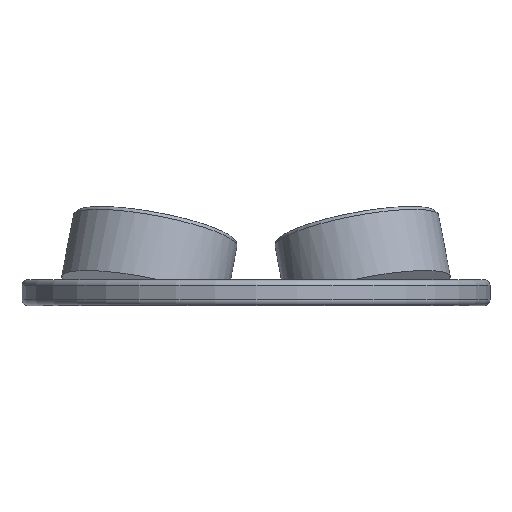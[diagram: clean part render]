
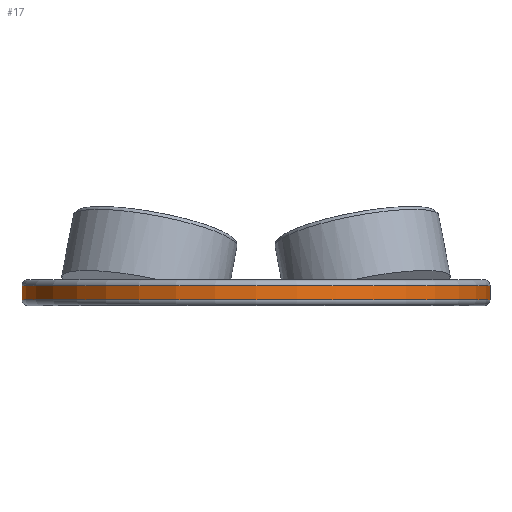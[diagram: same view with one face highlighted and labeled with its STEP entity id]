
A CAD part, front view. The second image highlights one B-rep face of the part: STEP entity #17.
In plain terms, the highlighted cylindrical face has radius 14.596 mm (diameter 29.192 mm), a full revolution.
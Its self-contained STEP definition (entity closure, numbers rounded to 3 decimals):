
#17 = ADVANCED_FACE('',(#18),#32,.T.);
#18 = FACE_BOUND('',#19,.F.);
#19 = EDGE_LOOP('',(#20,#50,#77,#78));
#20 = ORIENTED_EDGE('',*,*,#21,.T.);
#21 = EDGE_CURVE('',#22,#24,#26,.T.);
#22 = VERTEX_POINT('',#23);
#23 = CARTESIAN_POINT('',(14.596,0.,0.35));
#24 = VERTEX_POINT('',#25);
#25 = CARTESIAN_POINT('',(14.596,0.,1.25));
#26 = SEAM_CURVE('',#27,(#31,#43),.PCURVE_S1.);
#27 = LINE('',#28,#29);
#28 = CARTESIAN_POINT('',(14.596,0.,0.));
#29 = VECTOR('',#30,1.);
#30 = DIRECTION('',(0.,0.,1.));
#31 = PCURVE('',#32,#37);
#32 = CYLINDRICAL_SURFACE('',#33,14.596);
#33 = AXIS2_PLACEMENT_3D('',#34,#35,#36);
#34 = CARTESIAN_POINT('',(0.,0.,0.));
#35 = DIRECTION('',(-0.,-0.,-1.));
#36 = DIRECTION('',(1.,0.,0.));
#37 = DEFINITIONAL_REPRESENTATION('',(#38),#42);
#38 = LINE('',#39,#40);
#39 = CARTESIAN_POINT('',(-0.,0.));
#40 = VECTOR('',#41,1.);
#41 = DIRECTION('',(-0.,-1.));
#42 = ( GEOMETRIC_REPRESENTATION_CONTEXT(2) 
PARAMETRIC_REPRESENTATION_CONTEXT() REPRESENTATION_CONTEXT('2D SPACE',''
  ) );
#43 = PCURVE('',#32,#44);
#44 = DEFINITIONAL_REPRESENTATION('',(#45),#49);
#45 = LINE('',#46,#47);
#46 = CARTESIAN_POINT('',(-6.283,0.));
#47 = VECTOR('',#48,1.);
#48 = DIRECTION('',(-0.,-1.));
#49 = ( GEOMETRIC_REPRESENTATION_CONTEXT(2) 
PARAMETRIC_REPRESENTATION_CONTEXT() REPRESENTATION_CONTEXT('2D SPACE',''
  ) );
#50 = ORIENTED_EDGE('',*,*,#51,.T.);
#51 = EDGE_CURVE('',#24,#24,#52,.T.);
#52 = SURFACE_CURVE('',#53,(#58,#65),.PCURVE_S1.);
#53 = CIRCLE('',#54,14.596);
#54 = AXIS2_PLACEMENT_3D('',#55,#56,#57);
#55 = CARTESIAN_POINT('',(0.,0.,1.25));
#56 = DIRECTION('',(0.,0.,1.));
#57 = DIRECTION('',(1.,0.,-0.));
#58 = PCURVE('',#32,#59);
#59 = DEFINITIONAL_REPRESENTATION('',(#60),#64);
#60 = LINE('',#61,#62);
#61 = CARTESIAN_POINT('',(-0.,-1.25));
#62 = VECTOR('',#63,1.);
#63 = DIRECTION('',(-1.,0.));
#64 = ( GEOMETRIC_REPRESENTATION_CONTEXT(2) 
PARAMETRIC_REPRESENTATION_CONTEXT() REPRESENTATION_CONTEXT('2D SPACE',''
  ) );
#65 = PCURVE('',#66,#71);
#66 = TOROIDAL_SURFACE('',#67,14.246,0.35);
#67 = AXIS2_PLACEMENT_3D('',#68,#69,#70);
#68 = CARTESIAN_POINT('',(0.,0.,1.25));
#69 = DIRECTION('',(0.,0.,1.));
#70 = DIRECTION('',(1.,0.,-0.));
#71 = DEFINITIONAL_REPRESENTATION('',(#72),#76);
#72 = LINE('',#73,#74);
#73 = CARTESIAN_POINT('',(0.,0.));
#74 = VECTOR('',#75,1.);
#75 = DIRECTION('',(1.,0.));
#76 = ( GEOMETRIC_REPRESENTATION_CONTEXT(2) 
PARAMETRIC_REPRESENTATION_CONTEXT() REPRESENTATION_CONTEXT('2D SPACE',''
  ) );
#77 = ORIENTED_EDGE('',*,*,#21,.F.);
#78 = ORIENTED_EDGE('',*,*,#79,.F.);
#79 = EDGE_CURVE('',#22,#22,#80,.T.);
#80 = SURFACE_CURVE('',#81,(#86,#93),.PCURVE_S1.);
#81 = CIRCLE('',#82,14.596);
#82 = AXIS2_PLACEMENT_3D('',#83,#84,#85);
#83 = CARTESIAN_POINT('',(0.,0.,0.35));
#84 = DIRECTION('',(0.,0.,1.));
#85 = DIRECTION('',(1.,0.,-0.));
#86 = PCURVE('',#32,#87);
#87 = DEFINITIONAL_REPRESENTATION('',(#88),#92);
#88 = LINE('',#89,#90);
#89 = CARTESIAN_POINT('',(-0.,-0.35));
#90 = VECTOR('',#91,1.);
#91 = DIRECTION('',(-1.,0.));
#92 = ( GEOMETRIC_REPRESENTATION_CONTEXT(2) 
PARAMETRIC_REPRESENTATION_CONTEXT() REPRESENTATION_CONTEXT('2D SPACE',''
  ) );
#93 = PCURVE('',#94,#99);
#94 = TOROIDAL_SURFACE('',#95,14.246,0.35);
#95 = AXIS2_PLACEMENT_3D('',#96,#97,#98);
#96 = CARTESIAN_POINT('',(0.,0.,0.35));
#97 = DIRECTION('',(-0.,-0.,-1.));
#98 = DIRECTION('',(1.,0.,-0.));
#99 = DEFINITIONAL_REPRESENTATION('',(#100),#104);
#100 = LINE('',#101,#102);
#101 = CARTESIAN_POINT('',(-0.,0.));
#102 = VECTOR('',#103,1.);
#103 = DIRECTION('',(-1.,0.));
#104 = ( GEOMETRIC_REPRESENTATION_CONTEXT(2) 
PARAMETRIC_REPRESENTATION_CONTEXT() REPRESENTATION_CONTEXT('2D SPACE',''
  ) );
